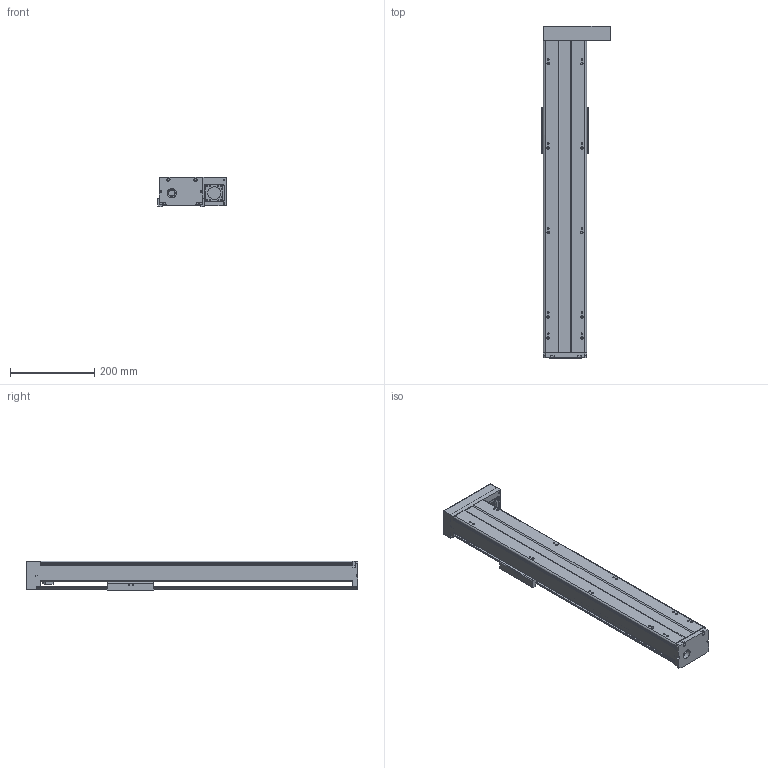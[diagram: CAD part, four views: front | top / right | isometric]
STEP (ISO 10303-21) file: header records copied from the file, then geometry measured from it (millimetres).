
FILE_DESCRIPTION(/* description */ (''),/* implementation_level */ '2;1');
FILE_NAME(/* name */ 'TKA100-FR-550_asm1.stp',/* time_stamp */ '2016-05-17T15:41:32+08:00',/* author */ (''),/* organization */ (''),/* preprocessor_version */ 'ST-DEVELOPER v15',/* originating_system */ 'SIEMENS PLM Software NX 8.5',/* authorisation */ '');
FILE_SCHEMA (('AUTOMOTIVE_DESIGN { 1 0 10303 214 3 1 1 1 }'));
Length unit declared in the file: millimetre
Products named in the file (3): 200-2; 200-1; TKA100-FR-550_asm1
Assembly tree (2 placements, depth 2):
  TKA100-FR-550_asm1
    200-1
    200-2
Bounding box: 162 x 786 x 71 mm (x, y, z)
Volume: 1750036 mm3; surface area: 598474.2 mm2
Topology: 2 solids, 16 shells, 798 faces, 2074 edges, 1353 vertices
Faces by surface type: plane 322, cylinder 301, cone 121, torus 28, bspline 26
Full cylindrical faces by diameter (mm): 2.5 x6, 2.6 x8, 3.3 x11, 3.4 x4, 3.8 x8, 4.2 x19, 4.3 x4, 4.5 x6, 5 x2, 5.5 x18, 6.6 x4, 8 x4, 9 x6, 10 x11, 11 x4, 12 x6, 15.3 x1, 16 x1, 22 x1, 24 x1, 28 x2, 30 x1, 33 x1
Entity records: 29066 total; most frequent: CARTESIAN_POINT 10602, DIRECTION 3787, ORIENTED_EDGE 3584, EDGE_CURVE 1792, AXIS2_PLACEMENT_3D 1495, VERTEX_POINT 1270, EDGE_LOOP 1097, ADVANCED_FACE 798
